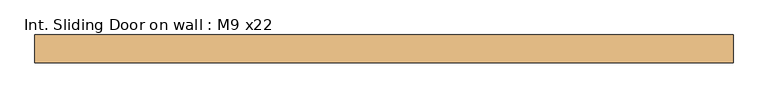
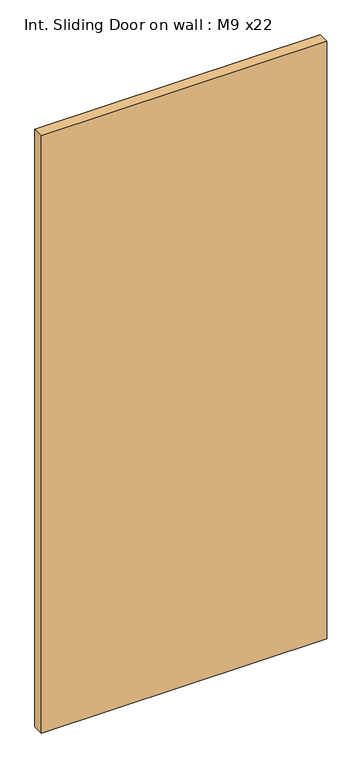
"""IFC4 building model written with IfcOpenShell, lengths in millimetres: door geometry, Int. Sliding Door on wall : M9 x22."""

import ifcopenshell
import ifcopenshell.guid

model = None  # the IFC model being written
_history = None  # IfcOwnerHistory: only IFC2X3 demands one
_inside = {}  # id of a spatial element -> (the spatial element, [elements in it])
_under = {}  # id of a project, library or spatial element -> (it, [spatial elements below it])
_declared = {}  # id of a project -> (the project, [libraries it declares])
_typed = {}  # id of a type object -> (the type object, [elements of that type])
_made_of = {}  # id of a material, layer set ... -> (it, [elements and type objects made of it])


def new_model(schema):
    """Start an empty IFC model of exactly this schema.

    Asked for "IFC4X3", IfcOpenShell would pick the latest addendum, in which some entities
    have other attributes; the version numbers below select the first issue.
    IFC2X3 requires an IfcOwnerHistory on every rooted entity: one is made here for all.
    """
    global model, _history
    if schema == "IFC4X3":
        model = ifcopenshell.file(schema_version=(4, 3, 0, 0))
    else:
        model = ifcopenshell.file(schema=schema)
    _inside.clear()
    _under.clear()
    _declared.clear()
    _typed.clear()
    _made_of.clear()
    _history = None
    if model.schema == "IFC2X3":
        org = make("IfcOrganization", Name="unknown")
        user = make(
            "IfcPersonAndOrganization",
            ThePerson=make("IfcPerson", FamilyName="unknown"),
            TheOrganization=org,
        )
        app = make(
            "IfcApplication",
            ApplicationDeveloper=org,
            Version="unknown",
            ApplicationFullName="unknown",
            ApplicationIdentifier="unknown",
        )
        _history = make(
            "IfcOwnerHistory",
            OwningUser=user,
            OwningApplication=app,
            ChangeAction="ADDED",
            CreationDate=0,
        )
    return model


def make(cls, **values):
    """One entity of the class cls with the attributes given. An attribute that is None is left unset."""
    return model.create_entity(
        cls, **{name: value for name, value in values.items() if value is not None}
    )


def rooted(cls, **values):
    """An entity with a GlobalId (a new one), such as an element, a storey or a relation."""
    return make(cls, GlobalId=ifcopenshell.guid.new(), OwnerHistory=_history, **values)


def si_unit(unit_type, name, prefix=None):
    """IfcSIUnit, for example si_unit("LENGTHUNIT", "METRE", prefix="MILLI")."""
    return make("IfcSIUnit", UnitType=unit_type, Prefix=prefix, Name=name)


def assignment(units):
    """IfcUnitAssignment: the units of a project."""
    return None if units is None else make("IfcUnitAssignment", Units=units)


def point(xyz):
    """IfcCartesianPoint."""
    return None if xyz is None else make("IfcCartesianPoint", Coordinates=xyz)


def direction(xyz):
    """IfcDirection."""
    return None if xyz is None else make("IfcDirection", DirectionRatios=xyz)


def frame(location, z_axis=None, x_axis=None):
    """IfcAxis2Placement3D, a coordinate frame: its origin and axes. An axis left out is left unset."""
    return make(
        "IfcAxis2Placement3D",
        Location=point(location),
        Axis=direction(z_axis),
        RefDirection=direction(x_axis),
    )


def origin():
    """The frame at (0, 0, 0) with its axes left unset."""
    return frame((0.0, 0.0, 0.0))


def place(relative_to, where):
    """IfcLocalPlacement: puts the frame where relative to a parent placement (None: the world)."""
    return make(
        "IfcLocalPlacement", PlacementRelTo=relative_to, RelativePlacement=where
    )


def context(
    kind, dimensions, precision=None, world=None, true_north=None, identifier=None
):
    """IfcGeometricRepresentationContext, for example the 3D "Model" context."""
    return make(
        "IfcGeometricRepresentationContext",
        ContextIdentifier=identifier,
        ContextType=kind,
        CoordinateSpaceDimension=dimensions,
        Precision=precision,
        WorldCoordinateSystem=world,
        TrueNorth=true_north,
    )


def project(units=None, contexts=None):
    """IfcProject with its units and contexts."""
    return rooted(
        "IfcProject",
        Name="project",
        RepresentationContexts=contexts,
        UnitsInContext=assignment(units),
    )


def spatial(cls, under=None, at=None, **own):
    """A site, building, storey or space (cls), placed at a placement, below another one or the project."""
    s = rooted(cls, ObjectPlacement=at, **own)
    if under is not None:
        _under.setdefault(under.id(), (under, []))[1].append(s)
    return s


def polyline(points):
    """IfcPolyline through the points."""
    return make("IfcPolyline", Points=[point(p) for p in points])


def outline(outer, holes=None, kind="AREA"):
    """IfcArbitraryClosedProfileDef: a profile drawn as a closed curve; with holes, ...WithVoids."""
    if holes is None:
        return make("IfcArbitraryClosedProfileDef", ProfileType=kind, OuterCurve=outer)
    return make(
        "IfcArbitraryProfileDefWithVoids",
        ProfileType=kind,
        OuterCurve=outer,
        InnerCurves=holes,
    )


def extrude(swept, where, along, depth):
    """IfcExtrudedAreaSolid: the profile swept, set in the frame where, extruded along a direction by depth."""
    return make(
        "IfcExtrudedAreaSolid",
        SweptArea=swept,
        Position=where,
        ExtrudedDirection=direction(along),
        Depth=depth,
    )


def shape(context_of_items, identifier, shape_type, items):
    """IfcShapeRepresentation: the items that make up one representation, for example the "Body"."""
    return make(
        "IfcShapeRepresentation",
        ContextOfItems=context_of_items,
        RepresentationIdentifier=identifier,
        RepresentationType=shape_type,
        Items=items,
    )


def source(mapping_origin, context_of_items, identifier, shape_type, items):
    """IfcRepresentationMap: a shape defined once, which mapped items show again and again."""
    return make(
        "IfcRepresentationMap",
        MappingOrigin=mapping_origin,
        MappedRepresentation=shape(context_of_items, identifier, shape_type, items),
    )


def transform(
    local_origin,
    x_axis=None,
    y_axis=None,
    z_axis=None,
    scale=None,
    scale2=None,
    scale3=None,
    uniform=True,
):
    """IfcCartesianTransformationOperator3D, or its non-uniform kind. x_axis, y_axis, z_axis: its Axis1, 2, 3."""
    if uniform:
        return make(
            "IfcCartesianTransformationOperator3D",
            Axis1=direction(x_axis),
            Axis2=direction(y_axis),
            LocalOrigin=point(local_origin),
            Scale=scale,
            Axis3=direction(z_axis),
        )
    return make(
        "IfcCartesianTransformationOperator3DnonUniform",
        Axis1=direction(x_axis),
        Axis2=direction(y_axis),
        LocalOrigin=point(local_origin),
        Scale=scale,
        Axis3=direction(z_axis),
        Scale2=scale2,
        Scale3=scale3,
    )


def mapped(mapping_source, mapping_target):
    """IfcMappedItem: shows the shape of a source again, moved by a transform."""
    return make(
        "IfcMappedItem", MappingSource=mapping_source, MappingTarget=mapping_target
    )


def made_of(thing, what):
    """Note that an element or type object is made of a material, layer set ...; save() writes the relation."""
    if what is not None:
        _made_of.setdefault(what.id(), (what, []))[1].append(thing)
    return thing


def element(
    cls,
    number,
    at=None,
    inside=None,
    cuts=None,
    type_object=None,
    material=None,
    context=None,
    identifier="Body",
    shape_type=None,
    held_by="IfcProductDefinitionShape",
    body=None,
    shapes=None,
    **own,
):
    """One element of the class cls, such as IfcWall. Its Tag is "e" and its number.

    at: its placement. inside: the storey or other place that contains it. cuts: it is an
    opening in that element (IfcRelVoidsElement). A single representation is given by context,
    identifier, shape_type and body (its items); several are given by shapes. held_by: the class
    of the entity that holds the representations. save() writes the other relations.
    """
    e = rooted(cls, Tag="e%d" % number, ObjectPlacement=at, **own)
    if body is not None:
        shapes = [shape(context, identifier, shape_type, body)]
    if shapes is not None:
        e.Representation = make(held_by, Representations=shapes)
    if inside is not None:
        _inside.setdefault(inside.id(), (inside, []))[1].append(e)
    if cuts is not None:
        rooted(
            "IfcRelVoidsElement", RelatingBuildingElement=cuts, RelatedOpeningElement=e
        )
    if type_object is not None:
        _typed.setdefault(type_object.id(), (type_object, []))[1].append(e)
    return made_of(e, material)


def aggregate(whole, parts):
    """IfcRelAggregates: a whole, such as a stair, and the parts it consists of."""
    return rooted("IfcRelAggregates", RelatingObject=whole, RelatedObjects=parts)


def save(model, path):
    """Write the relations noted so far, then the file.

    IfcRelAggregates (storeys below a building ...), IfcRelContainedInSpatialStructure (elements
    in a storey), IfcRelDefinesByType, IfcRelAssociatesMaterial and IfcRelDeclares: one each for
    every whole, place, type object, material and project.
    """
    for whole, parts in _under.values():
        aggregate(whole, parts)
    for where, things in _inside.values():
        rooted(
            "IfcRelContainedInSpatialStructure",
            RelatedElements=things,
            RelatingStructure=where,
        )
    for kind, things in _typed.values():
        rooted("IfcRelDefinesByType", RelatedObjects=things, RelatingType=kind)
    for what, things in _made_of.values():
        rooted("IfcRelAssociatesMaterial", RelatedObjects=things, RelatingMaterial=what)
    for by, libraries in _declared.values():
        rooted("IfcRelDeclares", RelatingContext=by, RelatedDefinitions=libraries)
    model.write(path)


def int_sliding_door_on_wall_m9_x22_8b50374d(model_context):
    return source(origin(), model_context, "Body", "SweptSolid", [
        extrude(outline(polyline([(-1384.0, 160.041971), (-380.0, 160.041971), (-380.0, 120.041971), (-1384.0, 120.041971), (-1384.0, 160.041971)])), frame((0.0, 0.0, 10.0), z_axis=(0.0, 0.0, 1.0), x_axis=(1.0, 0.0, 0.0)), (0.0, 0.0, 1.0), 2222.0),
    ])


if __name__ == "__main__":
    model = new_model("IFC4")
    model_context = context("Model", 3, world=origin())
    ifc_project = project(units=[si_unit("LENGTHUNIT", "METRE", prefix="MILLI")], contexts=[model_context])
    site = spatial("IfcSite", under=ifc_project)
    building = spatial("IfcBuilding", under=site)
    placement = place(None, origin())
    int_sliding_door_on_wall_m9_x22_shape = int_sliding_door_on_wall_m9_x22_8b50374d(model_context)
    element("IfcDoor", 1, ObjectType="Int. Sliding Door on wall : M9 x22", at=placement, inside=building, context=model_context, shape_type="MappedRepresentation", body=[
        mapped(int_sliding_door_on_wall_m9_x22_shape, transform((0.0, 0.0, 0.0), x_axis=(1.0, 0.0, 0.0), y_axis=(0.0, 1.0, 0.0), z_axis=(0.0, 0.0, 1.0))),
    ])
    save(model, "model.ifc")
